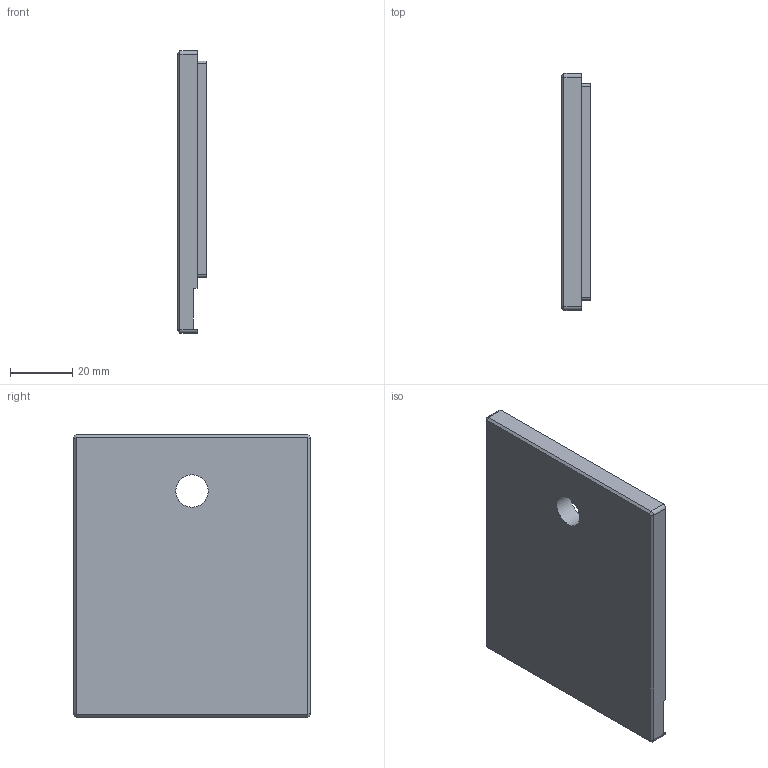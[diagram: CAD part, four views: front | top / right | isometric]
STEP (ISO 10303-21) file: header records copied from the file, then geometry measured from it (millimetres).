
FILE_DESCRIPTION(('Open CASCADE Model'),'2;1');
FILE_NAME('Open CASCADE Shape Model','2026-09-29T12:48:04',('Author'),( 'Open CASCADE'),'Open CASCADE STEP processor 7.9','Open CASCADE 7.9' ,'Unknown');
FILE_SCHEMA(('AUTOMOTIVE_DESIGN { 1 0 10303 214 1 1 1 1 }'));
Length unit declared in the file: millimetre
Products named in the file (1): Open CASCADE STEP translator 7.9 19
Bounding box: 9.35 x 76.2 x 90.9 mm (x, y, z)
Volume: 44533.6 mm3; surface area: 17577.1 mm2
Topology: 1 solids, 1 shells, 41 faces, 103 edges, 66 vertices
Faces by surface type: plane 24, cylinder 13, cone 4
Full cylindrical faces by diameter (mm): 10.4 x1
Entity records: 2572 total; most frequent: CARTESIAN_POINT 529, DIRECTION 371, LINE 213, VECTOR 213, ORIENTED_EDGE 206, PCURVE 206, DEFINITIONAL_REPRESENTATION 206, EDGE_CURVE 103
